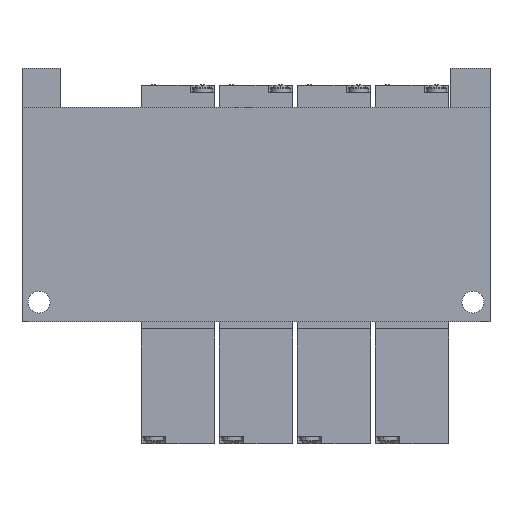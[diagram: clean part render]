
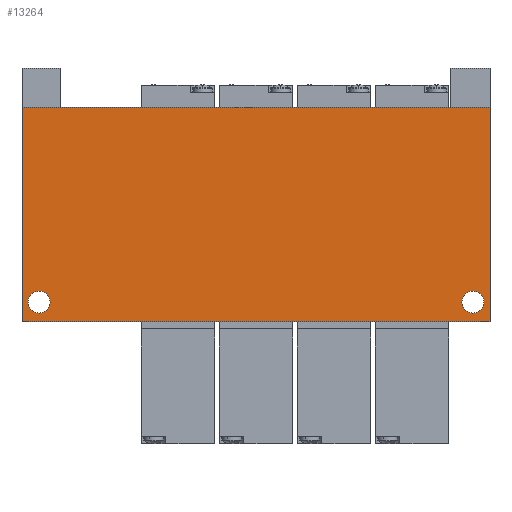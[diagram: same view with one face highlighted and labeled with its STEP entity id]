
A CAD part, front view. The second image highlights one B-rep face of the part: STEP entity #13264.
In plain terms, the highlighted planar face has unit normal (0, -1, 0).
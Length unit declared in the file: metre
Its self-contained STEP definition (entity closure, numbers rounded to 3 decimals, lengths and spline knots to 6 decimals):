
#83 = DIRECTION ( 'NONE',  ( 0., 0., 1. ) ) ;
#111 = DIRECTION ( 'NONE',  ( 1., 0., 0. ) ) ;
#477 = EDGE_LOOP ( 'NONE', ( #8531, #4379 ) ) ;
#736 = DIRECTION ( 'NONE',  ( 0., 0., 1. ) ) ;
#898 = CIRCLE ( 'NONE', #5668, 0.00225 ) ;
#1395 = VECTOR ( 'NONE', #111, 1. ) ;
#1755 = ORIENTED_EDGE ( 'NONE', *, *, #10169, .T. ) ;
#2011 = CIRCLE ( 'NONE', #11541, 0.00225 ) ;
#2212 = VECTOR ( 'NONE', #2503, 1. ) ;
#2223 = ORIENTED_EDGE ( 'NONE', *, *, #10375, .T. ) ;
#2282 = EDGE_LOOP ( 'NONE', ( #2223, #1755 ) ) ;
#2454 = CARTESIAN_POINT ( 'NONE',  ( 0.0445, -0.01525, -0.01925 ) ) ;
#2503 = DIRECTION ( 'NONE',  ( 0., 0., 1. ) ) ;
#2668 = EDGE_CURVE ( 'NONE', #8178, #7880, #3116, .T. ) ;
#2675 = DIRECTION ( 'NONE',  ( 0., 1., 0. ) ) ;
#2735 = CARTESIAN_POINT ( 'NONE',  ( -0.048, -0.01525, -0.0035 ) ) ;
#2890 = DIRECTION ( 'NONE',  ( 0., 0., 1. ) ) ;
#2959 = EDGE_CURVE ( 'NONE', #8178, #14415, #5278, .T. ) ;
#2964 = AXIS2_PLACEMENT_3D ( 'NONE', #8649, #9833, #2890 ) ;
#3116 = LINE ( 'NONE', #5236, #12109 ) ;
#3164 = VERTEX_POINT ( 'NONE', #2454 ) ;
#3431 = EDGE_CURVE ( 'NONE', #6543, #8631, #898, .T. ) ;
#3561 = CARTESIAN_POINT ( 'NONE',  ( 0.0445, -0.01525, -0.02375 ) ) ;
#3700 = DIRECTION ( 'NONE',  ( 0., 1., 0. ) ) ;
#4379 = ORIENTED_EDGE ( 'NONE', *, *, #3431, .T. ) ;
#4429 = ORIENTED_EDGE ( 'NONE', *, *, #2959, .F. ) ;
#4475 = FACE_BOUND ( 'NONE', #477, .T. ) ;
#5128 = ORIENTED_EDGE ( 'NONE', *, *, #10865, .F. ) ;
#5236 = CARTESIAN_POINT ( 'NONE',  ( 0., -0.01525, -0.0255 ) ) ;
#5278 = LINE ( 'NONE', #2735, #2212 ) ;
#5337 = DIRECTION ( 'NONE',  ( 1., 0., 0. ) ) ;
#5668 = AXIS2_PLACEMENT_3D ( 'NONE', #7110, #7218, #7201 ) ;
#6087 = CARTESIAN_POINT ( 'NONE',  ( -0.048, -0.01525, 0.0185 ) ) ;
#6543 = VERTEX_POINT ( 'NONE', #13240 ) ;
#6918 = DIRECTION ( 'NONE',  ( 0., 1., 0. ) ) ;
#6955 = CARTESIAN_POINT ( 'NONE',  ( 0., -0.01525, 0.0185 ) ) ;
#7065 = DIRECTION ( 'NONE',  ( 0., 0., 1. ) ) ;
#7110 = CARTESIAN_POINT ( 'NONE',  ( -0.0445, -0.01525, -0.0215 ) ) ;
#7201 = DIRECTION ( 'NONE',  ( 0., 0., 1. ) ) ;
#7218 = DIRECTION ( 'NONE',  ( 0., 1., 0. ) ) ;
#7279 = ORIENTED_EDGE ( 'NONE', *, *, #2668, .T. ) ;
#7321 = CARTESIAN_POINT ( 'NONE',  ( 0.048, -0.01525, 0.0185 ) ) ;
#7682 = EDGE_CURVE ( 'NONE', #8631, #6543, #2011, .T. ) ;
#7880 = VERTEX_POINT ( 'NONE', #9404 ) ;
#8178 = VERTEX_POINT ( 'NONE', #10164 ) ;
#8280 = FACE_BOUND ( 'NONE', #2282, .T. ) ;
#8531 = ORIENTED_EDGE ( 'NONE', *, *, #7682, .T. ) ;
#8631 = VERTEX_POINT ( 'NONE', #12108 ) ;
#8649 = CARTESIAN_POINT ( 'NONE',  ( 0.048, -0.01525, -0.0255 ) ) ;
#9165 = VERTEX_POINT ( 'NONE', #3561 ) ;
#9404 = CARTESIAN_POINT ( 'NONE',  ( 0.048, -0.01525, -0.0255 ) ) ;
#9620 = CARTESIAN_POINT ( 'NONE',  ( 0.0445, -0.01525, -0.0215 ) ) ;
#9758 = AXIS2_PLACEMENT_3D ( 'NONE', #9620, #2675, #10799 ) ;
#9833 = DIRECTION ( 'NONE',  ( 0., -1., 0. ) ) ;
#10164 = CARTESIAN_POINT ( 'NONE',  ( -0.048, -0.01525, -0.0255 ) ) ;
#10169 = EDGE_CURVE ( 'NONE', #9165, #3164, #15015, .T. ) ;
#10375 = EDGE_CURVE ( 'NONE', #3164, #9165, #12735, .T. ) ;
#10393 = EDGE_LOOP ( 'NONE', ( #13550, #5128, #4429, #7279 ) ) ;
#10706 = CARTESIAN_POINT ( 'NONE',  ( -0.0445, -0.01525, -0.0215 ) ) ;
#10799 = DIRECTION ( 'NONE',  ( 0., 0., 1. ) ) ;
#10865 = EDGE_CURVE ( 'NONE', #14415, #11026, #13887, .T. ) ;
#10986 = PLANE ( 'NONE',  #2964 ) ;
#11026 = VERTEX_POINT ( 'NONE', #7321 ) ;
#11541 = AXIS2_PLACEMENT_3D ( 'NONE', #10706, #3700, #7065 ) ;
#11633 = LINE ( 'NONE', #12458, #14478 ) ;
#12108 = CARTESIAN_POINT ( 'NONE',  ( -0.0445, -0.01525, -0.01925 ) ) ;
#12109 = VECTOR ( 'NONE', #5337, 1. ) ;
#12458 = CARTESIAN_POINT ( 'NONE',  ( 0.048, -0.01525, -0.0035 ) ) ;
#12735 = CIRCLE ( 'NONE', #9758, 0.00225 ) ;
#13062 = AXIS2_PLACEMENT_3D ( 'NONE', #14113, #6918, #83 ) ;
#13240 = CARTESIAN_POINT ( 'NONE',  ( -0.0445, -0.01525, -0.02375 ) ) ;
#13264 = ADVANCED_FACE ( 'NONE', ( #8280, #4475, #13941 ), #10986, .T. ) ;
#13550 = ORIENTED_EDGE ( 'NONE', *, *, #14108, .T. ) ;
#13887 = LINE ( 'NONE', #6955, #1395 ) ;
#13941 = FACE_OUTER_BOUND ( 'NONE', #10393, .T. ) ;
#14108 = EDGE_CURVE ( 'NONE', #7880, #11026, #11633, .T. ) ;
#14113 = CARTESIAN_POINT ( 'NONE',  ( 0.0445, -0.01525, -0.0215 ) ) ;
#14415 = VERTEX_POINT ( 'NONE', #6087 ) ;
#14478 = VECTOR ( 'NONE', #736, 1. ) ;
#15015 = CIRCLE ( 'NONE', #13062, 0.00225 ) ;
